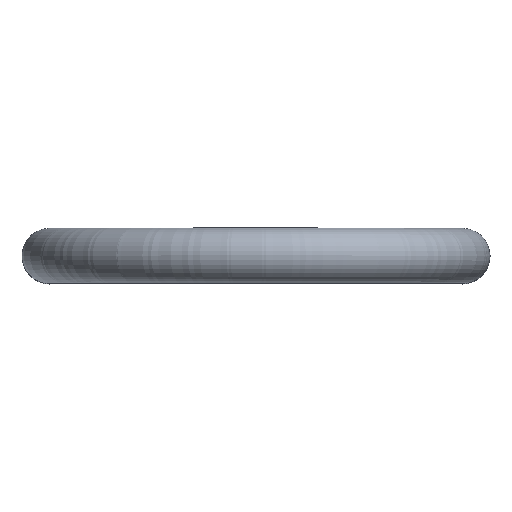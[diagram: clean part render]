
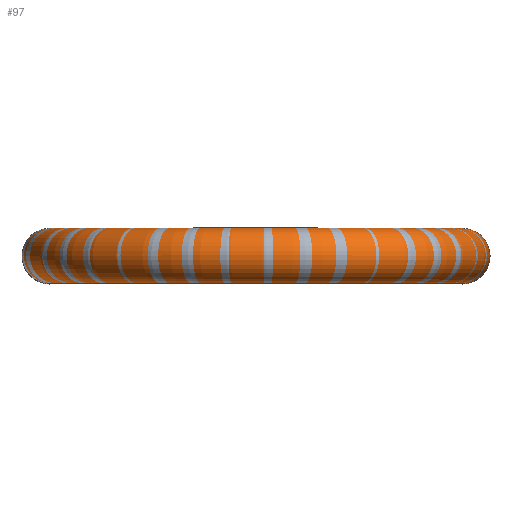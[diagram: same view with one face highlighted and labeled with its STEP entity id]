
A CAD part, top view. The second image highlights one B-rep face of the part: STEP entity #97.
In plain terms, the highlighted toroidal (fillet/blend) face has major radius 29.766 mm and minor radius 3.969 mm.
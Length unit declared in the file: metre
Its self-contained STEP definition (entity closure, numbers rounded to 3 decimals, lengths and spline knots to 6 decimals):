
#18=TOROIDAL_SURFACE('',#134,0.029766,0.003969);
#22=ORIENTED_EDGE('',*,*,#37,.F.);
#23=ORIENTED_EDGE('',*,*,#38,.T.);
#37=EDGE_CURVE('',#45,#45,#53,.T.);
#38=EDGE_CURVE('',#46,#46,#54,.T.);
#45=VERTEX_POINT('',#195);
#46=VERTEX_POINT('',#198);
#53=CIRCLE('',#133,0.003969);
#54=CIRCLE('',#135,0.003969);
#62=EDGE_LOOP('',(#22));
#63=EDGE_LOOP('',(#23));
#78=FACE_BOUND('',#62,.T.);
#79=FACE_BOUND('',#63,.T.);
#97=ADVANCED_FACE('',(#78,#79),#18,.T.);
#133=AXIS2_PLACEMENT_3D('',#194,#156,#157);
#134=AXIS2_PLACEMENT_3D('',#196,#158,#159);
#135=AXIS2_PLACEMENT_3D('',#197,#160,#161);
#156=DIRECTION('',(0.,0.,-1.));
#157=DIRECTION('',(-1.,0.,0.));
#158=DIRECTION('',(0.,1.,0.));
#159=DIRECTION('',(0.,0.,1.));
#160=DIRECTION('',(0.,0.,1.));
#161=DIRECTION('',(1.,0.,0.));
#194=CARTESIAN_POINT('',(0.029766,0.,0.0508));
#195=CARTESIAN_POINT('',(0.025797,0.,0.0508));
#196=CARTESIAN_POINT('',(0.,0.,0.0508));
#197=CARTESIAN_POINT('',(-0.029766,0.,0.0508));
#198=CARTESIAN_POINT('',(-0.025797,0.,0.0508));
